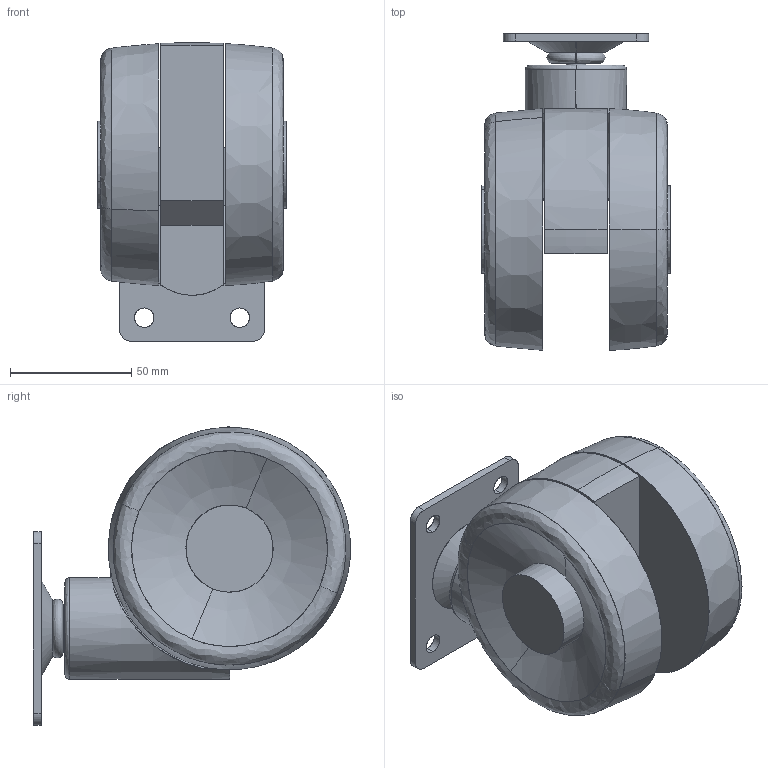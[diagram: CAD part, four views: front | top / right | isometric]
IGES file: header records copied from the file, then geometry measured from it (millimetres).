
Start section: SolidWorks IGES file using analytic representation for surfaces
Bounding box: 78 x 131 x 123.34 mm (x, y, z)
Surface area: 79817.1 mm2 (no closed solid volume)
Topology: 0 solids, 0 shells, 63 faces, 1256 edges, 1256 vertices
Faces by surface type: bspline 35, revolution 28
